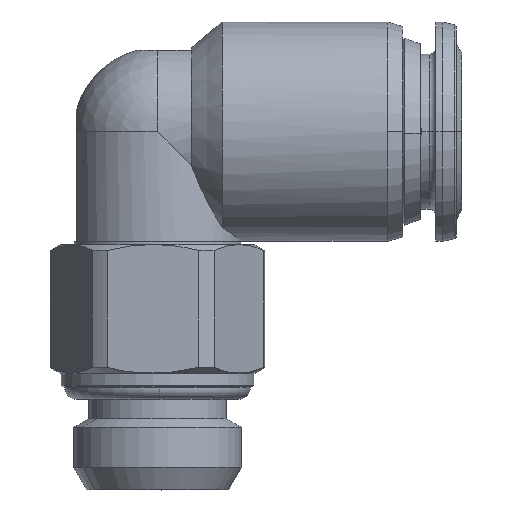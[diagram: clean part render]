
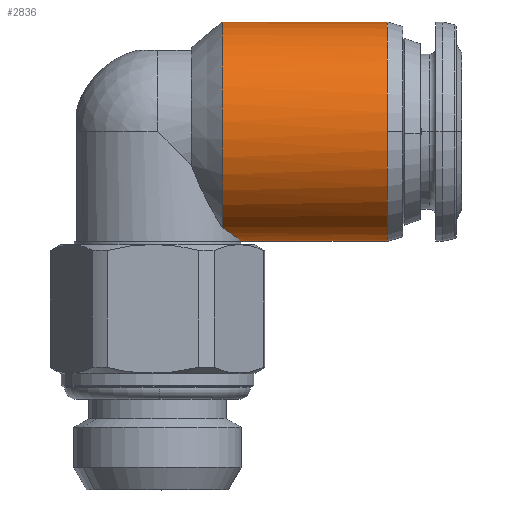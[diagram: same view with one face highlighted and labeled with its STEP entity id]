
A CAD part, top view. The second image highlights one B-rep face of the part: STEP entity #2836.
In plain terms, the highlighted cylindrical face has radius 8.5 mm (diameter 17 mm), a partial arc.
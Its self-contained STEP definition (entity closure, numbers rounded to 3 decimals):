
#26 = VERTEX_POINT ( 'NONE', #216 ) ;
#144 = AXIS2_PLACEMENT_3D ( 'NONE', #5365, #3252, #1092 ) ;
#189 = CYLINDRICAL_SURFACE ( 'NONE', #2551, 8.5 ) ;
#216 = CARTESIAN_POINT ( 'NONE',  ( 5., 1.084, 4.153 ) ) ;
#219 = CARTESIAN_POINT ( 'NONE',  ( 5.23, 0.929, 3.877 ) ) ;
#454 = CARTESIAN_POINT ( 'NONE',  ( 17.8, 8.5, 8.5 ) ) ;
#515 = CIRCLE ( 'NONE', #3739, 8.5 ) ;
#615 = ORIENTED_EDGE ( 'NONE', *, *, #4811, .T. ) ;
#699 = CARTESIAN_POINT ( 'NONE',  ( 19., 17., 0. ) ) ;
#966 = VERTEX_POINT ( 'NONE', #3721 ) ;
#1087 = ORIENTED_EDGE ( 'NONE', *, *, #2021, .F. ) ;
#1092 = DIRECTION ( 'NONE',  ( 0., 0., 1. ) ) ;
#1196 = CARTESIAN_POINT ( 'NONE',  ( 19., 8.5, 0. ) ) ;
#1480 = CARTESIAN_POINT ( 'NONE',  ( 5.962, 0.404, 2.616 ) ) ;
#1867 = CARTESIAN_POINT ( 'NONE',  ( 6.327, 0.132, 1.538 ) ) ;
#1924 = CARTESIAN_POINT ( 'NONE',  ( 6.464, 0.027, 0.782 ) ) ;
#1998 = VECTOR ( 'NONE', #3725, 1000. ) ;
#2019 = CARTESIAN_POINT ( 'NONE',  ( 19., 0., 0. ) ) ;
#2021 = EDGE_CURVE ( 'NONE', #2582, #966, #4543, .T. ) ;
#2429 = CARTESIAN_POINT ( 'NONE',  ( 5., 17., 0. ) ) ;
#2455 = VECTOR ( 'NONE', #4112, 1000. ) ;
#2474 = DIRECTION ( 'NONE',  ( 0., 1., 0. ) ) ;
#2551 = AXIS2_PLACEMENT_3D ( 'NONE', #1196, #3752, #4579 ) ;
#2582 = VERTEX_POINT ( 'NONE', #2429 ) ;
#2589 = EDGE_CURVE ( 'NONE', #5235, #5121, #5111, .T. ) ;
#2735 = CARTESIAN_POINT ( 'NONE',  ( 6.226, 0.208, 1.905 ) ) ;
#2836 = ADVANCED_FACE ( 'NONE', ( #3666 ), #189, .T. ) ;
#2921 = ORIENTED_EDGE ( 'NONE', *, *, #3392, .T. ) ;
#3003 = CIRCLE ( 'NONE', #144, 8.5 ) ;
#3214 = CARTESIAN_POINT ( 'NONE',  ( 5.803, 0.522, 2.952 ) ) ;
#3229 = VERTEX_POINT ( 'NONE', #454 ) ;
#3252 = DIRECTION ( 'NONE',  ( -1., 0., 0. ) ) ;
#3318 = ORIENTED_EDGE ( 'NONE', *, *, #3711, .T. ) ;
#3392 = EDGE_CURVE ( 'NONE', #5121, #3229, #515, .T. ) ;
#3619 = DIRECTION ( 'NONE',  ( -1., 0., 0. ) ) ;
#3666 = FACE_OUTER_BOUND ( 'NONE', #4132, .T. ) ;
#3690 = CARTESIAN_POINT ( 'NONE',  ( 5., 8.5, 0. ) ) ;
#3711 = EDGE_CURVE ( 'NONE', #26, #5235, #4770, .T. ) ;
#3721 = CARTESIAN_POINT ( 'NONE',  ( 17.8, 17., 0. ) ) ;
#3725 = DIRECTION ( 'NONE',  ( 1., 0., 0. ) ) ;
#3739 = AXIS2_PLACEMENT_3D ( 'NONE', #3980, #3619, #5303 ) ;
#3752 = DIRECTION ( 'NONE',  ( 1., 0., 0. ) ) ;
#3894 = CIRCLE ( 'NONE', #4720, 8.5 ) ;
#3980 = CARTESIAN_POINT ( 'NONE',  ( 17.8, 8.5, 0. ) ) ;
#4055 = CARTESIAN_POINT ( 'NONE',  ( 5., 1.084, 4.153 ) ) ;
#4074 = ORIENTED_EDGE ( 'NONE', *, *, #5123, .T. ) ;
#4090 = ORIENTED_EDGE ( 'NONE', *, *, #2589, .T. ) ;
#4112 = DIRECTION ( 'NONE',  ( 1., 0., 0. ) ) ;
#4129 = CARTESIAN_POINT ( 'NONE',  ( 17.8, 0., 0. ) ) ;
#4132 = EDGE_LOOP ( 'NONE', ( #3318, #4090, #2921, #4074, #1087, #615 ) ) ;
#4347 = CARTESIAN_POINT ( 'NONE',  ( 6.5, 0., 0. ) ) ;
#4543 = LINE ( 'NONE', #699, #2455 ) ;
#4576 = DIRECTION ( 'NONE',  ( 1., 0., 0. ) ) ;
#4579 = DIRECTION ( 'NONE',  ( 0., 1., 0. ) ) ;
#4720 = AXIS2_PLACEMENT_3D ( 'NONE', #3690, #4576, #2474 ) ;
#4770 = B_SPLINE_CURVE_WITH_KNOTS ( 'NONE', 3,
 ( #4055, #219, #4908, #3214, #1480, #2735, #1867, #1924, #5409, #4878 ),
 .UNSPECIFIED., .F., .F.,
 ( 4, 2, 2, 2, 4 ),
 ( 0.027, 0.028, 0.03, 0.031, 0.032 ),
 .UNSPECIFIED. ) ;
#4811 = EDGE_CURVE ( 'NONE', #2582, #26, #3894, .T. ) ;
#4878 = CARTESIAN_POINT ( 'NONE',  ( 6.5, 0., 0. ) ) ;
#4908 = CARTESIAN_POINT ( 'NONE',  ( 5.437, 0.784, 3.581 ) ) ;
#5111 = LINE ( 'NONE', #2019, #1998 ) ;
#5121 = VERTEX_POINT ( 'NONE', #4129 ) ;
#5123 = EDGE_CURVE ( 'NONE', #3229, #966, #3003, .T. ) ;
#5235 = VERTEX_POINT ( 'NONE', #4347 ) ;
#5303 = DIRECTION ( 'NONE',  ( 0., 0., 1. ) ) ;
#5365 = CARTESIAN_POINT ( 'NONE',  ( 17.8, 8.5, 0. ) ) ;
#5409 = CARTESIAN_POINT ( 'NONE',  ( 6.5, 0., 0.388 ) ) ;
